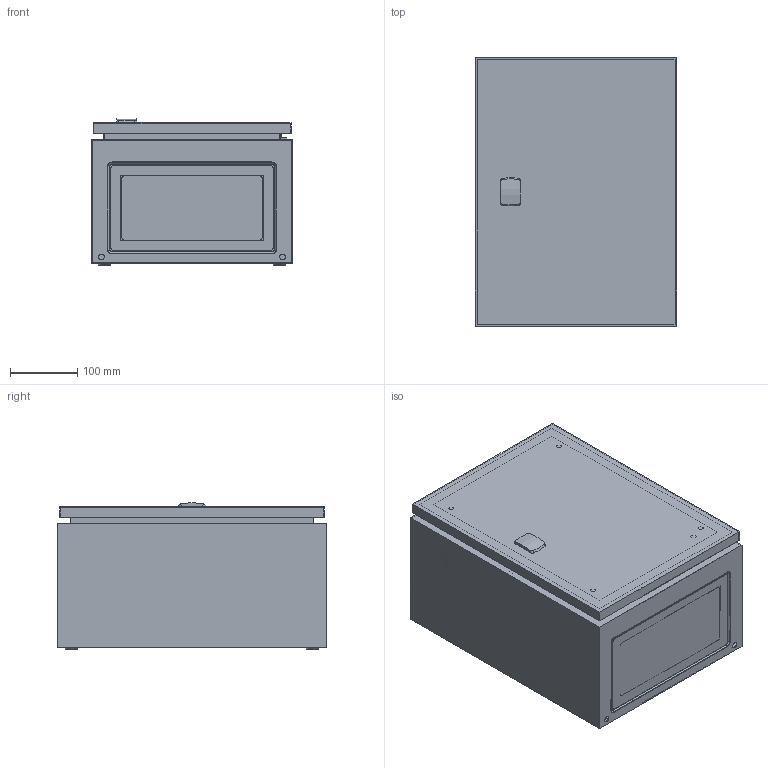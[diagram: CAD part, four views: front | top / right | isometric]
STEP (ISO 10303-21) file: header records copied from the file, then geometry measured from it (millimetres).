
FILE_DESCRIPTION(/* description */ ('STEP AP203'),/* implementation_level */ '2;1');
FILE_NAME(/* name */ 'MAS0403021R5(0)',/* time_stamp */ '2024-03-13T11:47:11+01:00',/* author */ ('License CC BY-ND 4.0'),/* organization */ ('CADENAS'),/* preprocessor_version */ 'ST-DEVELOPER v19.3',/* originating_system */ 'PARTsolutions',/* authorisation */ ' ');
FILE_SCHEMA (('CONFIG_CONTROL_DESIGN'));
Length unit declared in the file: millimetre
Products named in the file (8): MAS0403021R5(0); MAS0403021(0); MMSH06SS(0)_right; ADP04030R5(0); ALL503(0,0); AMP04030_MPL(0); AF01R5_GP(0); AG01_GPG(0)
Assembly tree (8 placements, depth 2):
  MAS0403021R5(0)
    MAS0403021(0)
    MMSH06SS(0)_right  x2
    ADP04030R5(0)
    ALL503(0,0)
    AMP04030_MPL(0)
    AF01R5_GP(0)
    AG01_GPG(0)
Bounding box: 300 x 400 x 217.67 mm (x, y, z)
Volume: 1180573.7 mm3; surface area: 1407271.7 mm2
Topology: 8 solids, 8 shells, 369 faces, 876 edges, 570 vertices
Faces by surface type: plane 237, cylinder 84, cone 47, torus 1
Full cylindrical faces by diameter (mm): 4.9 x2, 6 x4, 7 x4, 8 x7, 8.5 x4, 8.7 x2, 9 x2, 14 x7, 18 x1, 27 x1
Entity records: 10283 total; most frequent: CARTESIAN_POINT 1733, DIRECTION 1645, ORIENTED_EDGE 1484, EDGE_CURVE 742, AXIS2_PLACEMENT_3D 581, VERTEX_POINT 523, EDGE_LOOP 487, FACE_BOUND 487
